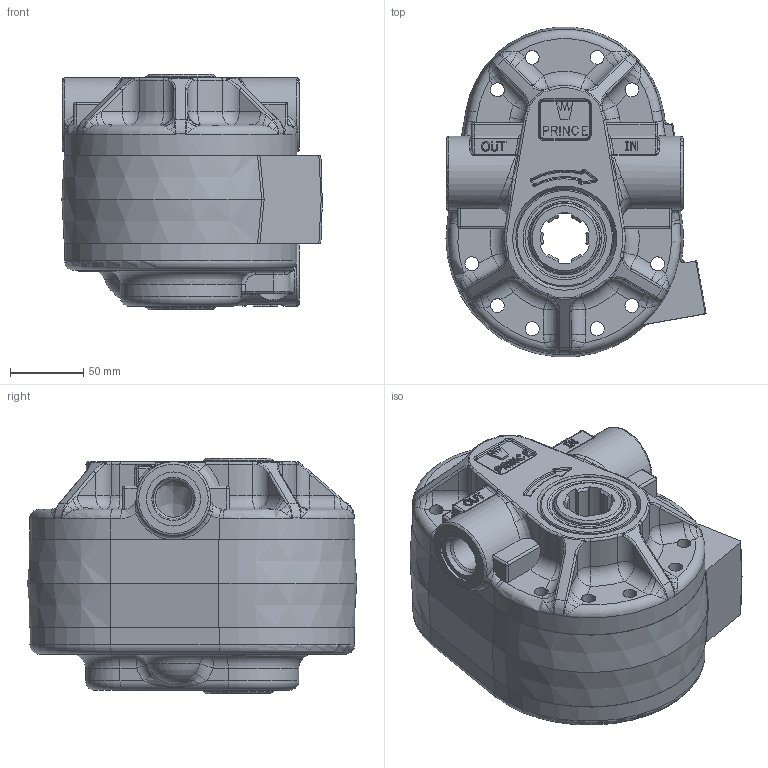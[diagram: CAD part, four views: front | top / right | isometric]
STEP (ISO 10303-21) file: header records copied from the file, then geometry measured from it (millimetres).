
FILE_DESCRIPTION((''),'2;1');
FILE_NAME('C:\Vault\Workspace\AssembliesPumps\HC-PTO_\HC-PTO-1Amodel.stp','2013-06-05T09:12:04',('otterbyj'),(''),'Autodesk Inventor 2012','Autodesk Inventor 2012','');
FILE_SCHEMA(('AUTOMOTIVE_DESIGN { 1 0 10303 214 1 1 1 1 }'));
Length unit declared in the file: inch
Products named in the file (6): HC-PTO-1Amodel; 500101004; 500101014; 500103020; 500104018m; 240016026
Assembly tree (6 placements, depth 2):
  HC-PTO-1Amodel
    500101004
    500101014
    500103020
    500104018m
    240016026  x2
Bounding box: 178.04 x 225.58 x 161.29 mm (x, y, z)
Volume: 2421855.2 mm3; surface area: 409475.5 mm2
Topology: 6 solids, 8 shells, 1143 faces, 2916 edges, 1796 vertices
Faces by surface type: plane 381, bspline 299, cylinder 248, torus 102, cone 87, sphere 26
Full cylindrical faces by diameter (mm): 7.798 x2, 8.731 x2, 9.525 x14, 9.545 x6, 10.319 x28, 16.256 x1, 19.05 x2, 23.8 x1, 24.994 x1, 28.702 x1, 30.937 x1, 31.75 x1, 37.033 x2, 38.1 x1, 41.255 x2, 42.926 x1, 44.348 x1, 47.582 x1, 53.184 x2, 61.04 x2, 61.89 x1, 61.915 x1, 64.77 x2, 66.599 x2, 66.802 x2
Entity records: 41970 total; most frequent: CARTESIAN_POINT 16146, ORIENTED_EDGE 5280, DIRECTION 4594, EDGE_CURVE 2640, AXIS2_PLACEMENT_3D 1734, VERTEX_POINT 1702, EDGE_LOOP 1384, VECTOR 1126
